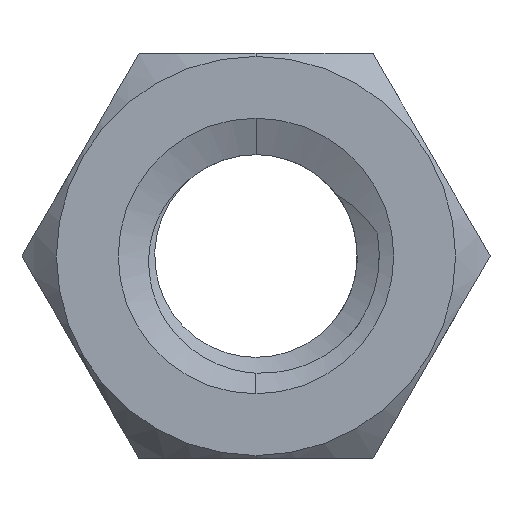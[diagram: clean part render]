
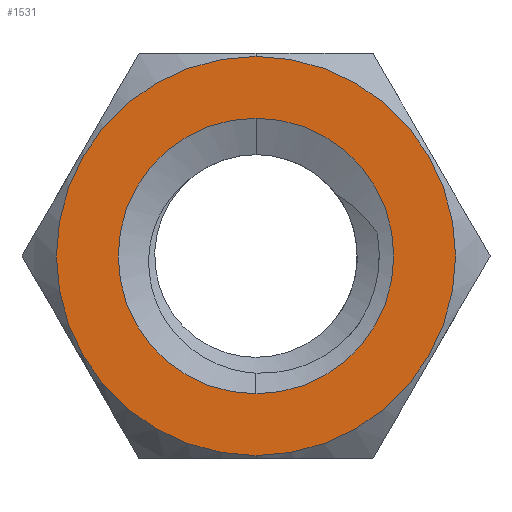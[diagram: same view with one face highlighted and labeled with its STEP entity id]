
A CAD part, front view. The second image highlights one B-rep face of the part: STEP entity #1531.
In plain terms, the highlighted planar face has unit normal (0, -1, 0).
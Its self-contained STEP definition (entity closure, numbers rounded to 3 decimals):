
#15 = DIRECTION ( 'NONE',  ( 0., 0., -1. ) ) ;
#51 = VERTEX_POINT ( 'NONE', #796 ) ;
#107 = AXIS2_PLACEMENT_3D ( 'NONE', #595, #1749, #15 ) ;
#123 = EDGE_LOOP ( 'NONE', ( #184, #1328 ) ) ;
#184 = ORIENTED_EDGE ( 'NONE', *, *, #538, .T. ) ;
#262 = CARTESIAN_POINT ( 'NONE',  ( 0., -1.5, 0. ) ) ;
#301 = VERTEX_POINT ( 'NONE', #1128 ) ;
#303 = PLANE ( 'NONE',  #1124 ) ;
#413 = FACE_OUTER_BOUND ( 'NONE', #123, .T. ) ;
#423 = CARTESIAN_POINT ( 'NONE',  ( 0., -1.5, -3.4 ) ) ;
#445 = CARTESIAN_POINT ( 'NONE',  ( 0., -1.5, 0. ) ) ;
#489 = VERTEX_POINT ( 'NONE', #670 ) ;
#523 = AXIS2_PLACEMENT_3D ( 'NONE', #1806, #610, #737 ) ;
#530 = AXIS2_PLACEMENT_3D ( 'NONE', #262, #1143, #879 ) ;
#538 = EDGE_CURVE ( 'NONE', #489, #301, #914, .T. ) ;
#587 = ORIENTED_EDGE ( 'NONE', *, *, #1528, .F. ) ;
#589 = CARTESIAN_POINT ( 'NONE',  ( 0., -1.5, 0. ) ) ;
#595 = CARTESIAN_POINT ( 'NONE',  ( 0., -1.5, 0. ) ) ;
#596 = CIRCLE ( 'NONE', #530, 3.4 ) ;
#610 = DIRECTION ( 'NONE',  ( 0., -1., 0. ) ) ;
#670 = CARTESIAN_POINT ( 'NONE',  ( 0., -1.5, 4.924 ) ) ;
#737 = DIRECTION ( 'NONE',  ( 0., 0., -1. ) ) ;
#796 = CARTESIAN_POINT ( 'NONE',  ( 0., -1.5, 3.4 ) ) ;
#838 = DIRECTION ( 'NONE',  ( 0., 1., 0. ) ) ;
#879 = DIRECTION ( 'NONE',  ( 0., 0., -1. ) ) ;
#914 = CIRCLE ( 'NONE', #523, 4.924 ) ;
#986 = DIRECTION ( 'NONE',  ( 0., 0., 1. ) ) ;
#1095 = CIRCLE ( 'NONE', #1842, 3.4 ) ;
#1124 = AXIS2_PLACEMENT_3D ( 'NONE', #445, #838, #986 ) ;
#1128 = CARTESIAN_POINT ( 'NONE',  ( 0., -1.5, -4.924 ) ) ;
#1131 = EDGE_LOOP ( 'NONE', ( #587, #1554 ) ) ;
#1143 = DIRECTION ( 'NONE',  ( 0., -1., 0. ) ) ;
#1300 = EDGE_CURVE ( 'NONE', #301, #489, #1395, .T. ) ;
#1328 = ORIENTED_EDGE ( 'NONE', *, *, #1300, .T. ) ;
#1395 = CIRCLE ( 'NONE', #107, 4.924 ) ;
#1512 = EDGE_CURVE ( 'NONE', #1596, #51, #1095, .T. ) ;
#1528 = EDGE_CURVE ( 'NONE', #51, #1596, #596, .T. ) ;
#1531 = ADVANCED_FACE ( 'NONE', ( #1692, #413 ), #303, .F. ) ;
#1554 = ORIENTED_EDGE ( 'NONE', *, *, #1512, .F. ) ;
#1589 = DIRECTION ( 'NONE',  ( 0., -1., 0. ) ) ;
#1596 = VERTEX_POINT ( 'NONE', #423 ) ;
#1692 = FACE_BOUND ( 'NONE', #1131, .T. ) ;
#1725 = DIRECTION ( 'NONE',  ( 0., 0., -1. ) ) ;
#1749 = DIRECTION ( 'NONE',  ( 0., -1., 0. ) ) ;
#1806 = CARTESIAN_POINT ( 'NONE',  ( 0., -1.5, 0. ) ) ;
#1842 = AXIS2_PLACEMENT_3D ( 'NONE', #589, #1589, #1725 ) ;
